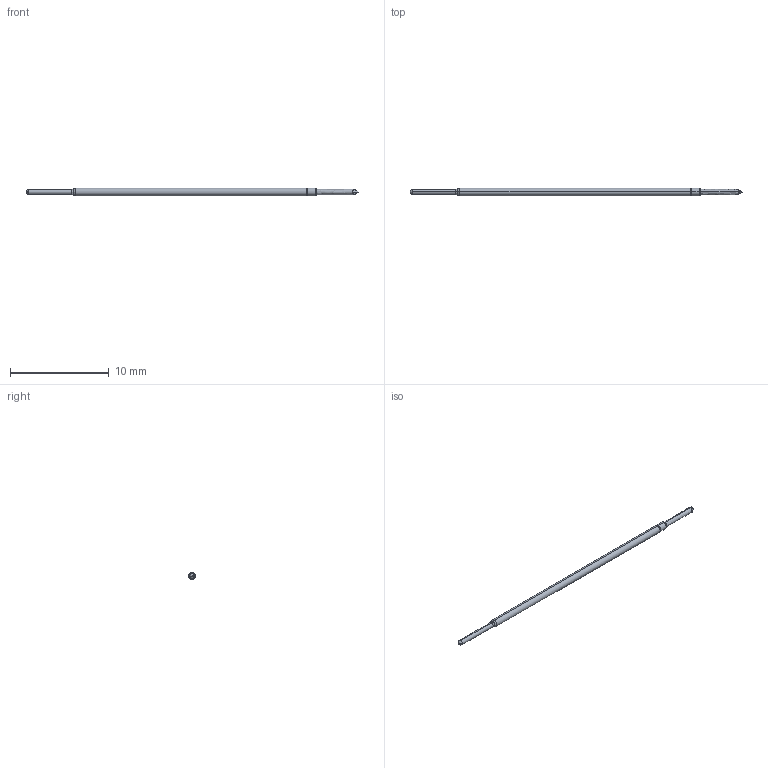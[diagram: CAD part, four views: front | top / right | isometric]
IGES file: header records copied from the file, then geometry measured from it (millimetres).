
Start section: SolidWorks IGES file using analytic representation for surfaces
Global section: file name: C:\Documents and Settings\mrumschlag\Desktop\changes\new\test\I8 RECD.IGS; native system: SolidWorks 2011; preprocessor: SolidWorks 2011; author: mrumschlag; date: 110630.142735; units: inch
Bounding box: 33.69 x 0.76 x 0.76 mm (x, y, z)
Surface area: 73.7 mm2 (no closed solid volume)
Topology: 0 solids, 0 shells, 31 faces, 178 edges, 176 vertices
Faces by surface type: bspline 17, revolution 14
